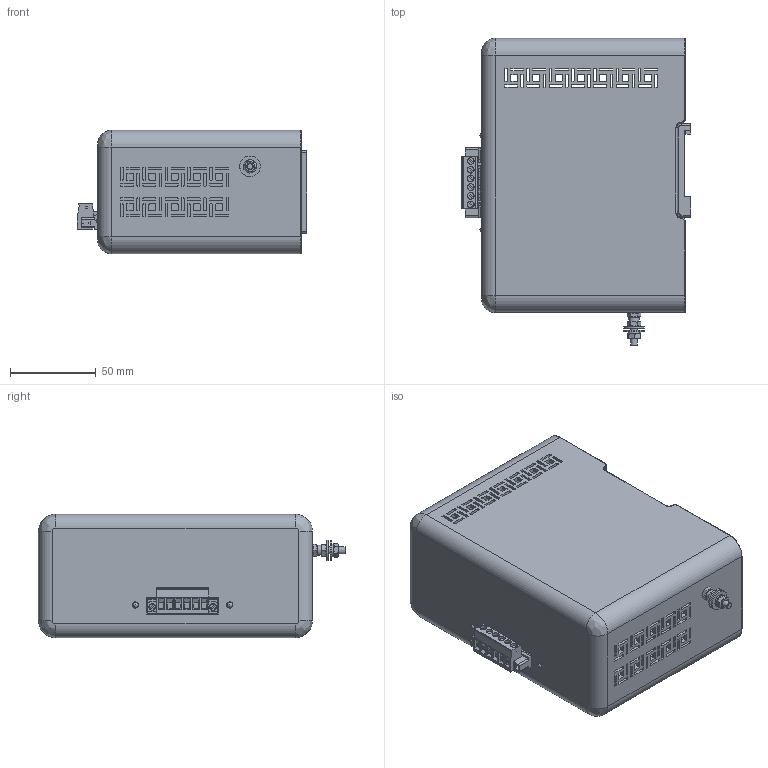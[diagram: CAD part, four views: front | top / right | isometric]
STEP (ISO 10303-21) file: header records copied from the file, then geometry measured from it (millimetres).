
FILE_DESCRIPTION(/* description */ (''),/* implementation_level */ '2;1');
FILE_NAME(/* name */ 'D:\WorkIMT\Project IMT\Пион-К\MT.PION-K.08\На сайт\PION-K 3D.stp',/* time_stamp */ '2024-01-10T11:24:14+03:00',/* author */ ('Admin'),/* organization */ (''),/* preprocessor_version */ 'ST-DEVELOPER v17.2',/* originating_system */ 'Autodesk Inventor 2019',/* authorisation */ '');
FILE_SCHEMA (('AUTOMOTIVE_DESIGN { 1 0 10303 214 3 1 1 }'));
Length unit declared in the file: millimetre
Products named in the file (1): PION-K 3D
Bounding box: 133.7 x 179.3 x 72 mm (x, y, z)
Volume: 210683.6 mm3; surface area: 163287.7 mm2
Topology: 5 solids, 36 shells, 3151 faces, 8453 edges, 5501 vertices
Faces by surface type: plane 1983, cylinder 792, bspline 247, torus 59, cone 57, sphere 13
Full cylindrical faces by diameter (mm): 0.434 x1, 0.609 x1, 1.4 x6, 1.75 x2, 1.8 x2, 2.4 x2, 2.5 x2, 2.9 x2, 3.783 x6, 3.8 x2, 3.9 x2, 4 x11, 4.2 x3, 4.3 x2, 5.9 x1, 7.4 x2, 9 x2, 12 x2, 12.26 x1
Entity records: 112813 total; most frequent: CARTESIAN_POINT 30185, ORIENTED_EDGE 16898, DIRECTION 15870, EDGE_CURVE 8449, LINE 5834, VECTOR 5834, VERTEX_POINT 5501, AXIS2_PLACEMENT_3D 5018
